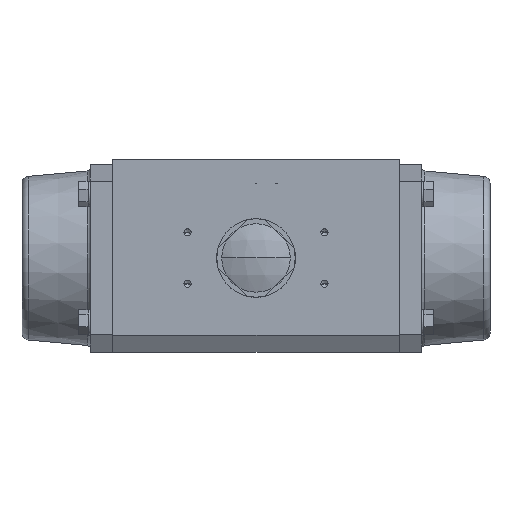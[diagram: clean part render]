
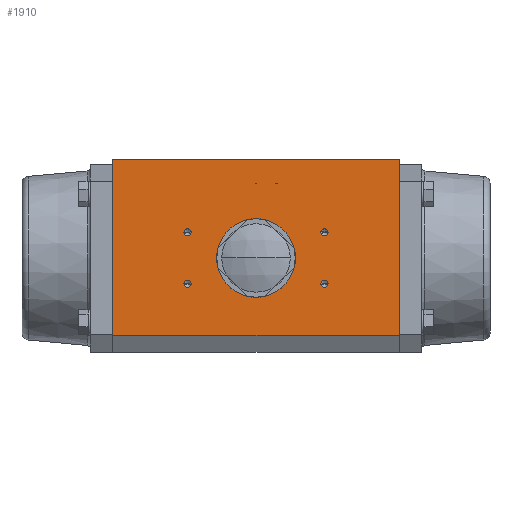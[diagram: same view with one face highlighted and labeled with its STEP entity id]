
A CAD part, top view. The second image highlights one B-rep face of the part: STEP entity #1910.
In plain terms, the highlighted planar face has unit normal (0, 0, 1) as drawn and (0, 1, 0) by its records, which use the part's own axes.
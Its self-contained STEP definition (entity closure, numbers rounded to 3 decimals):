
#249 = DIRECTION ( 'NONE',  ( 0., 1., 0. ) ) ;
#447 = VERTEX_POINT ( 'NONE', #2115 ) ;
#938 = DIRECTION ( 'NONE',  ( 0., -1., 0. ) ) ;
#948 = CIRCLE ( 'NONE', #28590, 2.1 ) ;
#1014 = FACE_OUTER_BOUND ( 'NONE', #37770, .T. ) ;
#1475 = EDGE_CURVE ( 'NONE', #29313, #14254, #10353, .T. ) ;
#1479 = CARTESIAN_POINT ( 'NONE',  ( 15., 62.5, -40. ) ) ;
#1910 = ADVANCED_FACE ( 'NONE', ( #8908, #24716, #1931, #32663, #1014 ), #9774, .F. ) ;
#1931 = FACE_BOUND ( 'NONE', #11917, .T. ) ;
#2115 = CARTESIAN_POINT ( 'NONE',  ( 57.5, 62.5, -83.75 ) ) ;
#2590 = DIRECTION ( 'NONE',  ( 0., 0., 1. ) ) ;
#2739 = CARTESIAN_POINT ( 'NONE',  ( -15., 62.5, 42.1 ) ) ;
#2790 = CARTESIAN_POINT ( 'NONE',  ( -45., 62.5, -83.75 ) ) ;
#3411 = CARTESIAN_POINT ( 'NONE',  ( -15., 62.5, 40. ) ) ;
#4121 = DIRECTION ( 'NONE',  ( 0., 1., 0. ) ) ;
#4434 = EDGE_CURVE ( 'NONE', #447, #33873, #20132, .T. ) ;
#4460 = DIRECTION ( 'NONE',  ( 0., 0., 1. ) ) ;
#4878 = CARTESIAN_POINT ( 'NONE',  ( 15., 62.5, -42.1 ) ) ;
#4897 = LINE ( 'NONE', #35146, #20706 ) ;
#6055 = AXIS2_PLACEMENT_3D ( 'NONE', #17243, #38077, #20200 ) ;
#6317 = CARTESIAN_POINT ( 'NONE',  ( -15., 62.5, 37.9 ) ) ;
#6334 = CARTESIAN_POINT ( 'NONE',  ( 15., 62.5, 42.1 ) ) ;
#6381 = CARTESIAN_POINT ( 'NONE',  ( -15., 62.5, -37.9 ) ) ;
#6416 = DIRECTION ( 'NONE',  ( 0., 0., -1. ) ) ;
#6904 = CARTESIAN_POINT ( 'NONE',  ( 57.5, 62.5, -83.75 ) ) ;
#7024 = DIRECTION ( 'NONE',  ( 0., 0., 1. ) ) ;
#7026 = CARTESIAN_POINT ( 'NONE',  ( -45., 62.5, 83.75 ) ) ;
#7543 = VERTEX_POINT ( 'NONE', #6381 ) ;
#7964 = EDGE_CURVE ( 'NONE', #22299, #21998, #948, .T. ) ;
#8908 = FACE_BOUND ( 'NONE', #27135, .T. ) ;
#9774 = PLANE ( 'NONE',  #37954 ) ;
#9928 = AXIS2_PLACEMENT_3D ( 'NONE', #18039, #249, #21010 ) ;
#10353 = CIRCLE ( 'NONE', #30257, 2.1 ) ;
#10374 = LINE ( 'NONE', #7026, #34107 ) ;
#10711 = CARTESIAN_POINT ( 'NONE',  ( 57.5, 62.5, 83.75 ) ) ;
#10778 = ORIENTED_EDGE ( 'NONE', *, *, #28640, .F. ) ;
#11112 = VERTEX_POINT ( 'NONE', #33732 ) ;
#11398 = DIRECTION ( 'NONE',  ( 0., 1., 0. ) ) ;
#11917 = EDGE_LOOP ( 'NONE', ( #34482, #16367 ) ) ;
#12247 = VECTOR ( 'NONE', #7024, 1000. ) ;
#12917 = EDGE_CURVE ( 'NONE', #17835, #36243, #28755, .T. ) ;
#13101 = ORIENTED_EDGE ( 'NONE', *, *, #25601, .F. ) ;
#14254 = VERTEX_POINT ( 'NONE', #4878 ) ;
#16331 = ORIENTED_EDGE ( 'NONE', *, *, #20876, .F. ) ;
#16367 = ORIENTED_EDGE ( 'NONE', *, *, #12917, .T. ) ;
#16541 = CARTESIAN_POINT ( 'NONE',  ( -15., 62.5, -42.1 ) ) ;
#16738 = DIRECTION ( 'NONE',  ( 0., -1., 0. ) ) ;
#16911 = CIRCLE ( 'NONE', #23715, 2.1 ) ;
#17212 = ORIENTED_EDGE ( 'NONE', *, *, #1475, .F. ) ;
#17243 = CARTESIAN_POINT ( 'NONE',  ( 15., 62.5, 40. ) ) ;
#17385 = EDGE_CURVE ( 'NONE', #36243, #17835, #25069, .T. ) ;
#17835 = VERTEX_POINT ( 'NONE', #2739 ) ;
#18039 = CARTESIAN_POINT ( 'NONE',  ( -15., 62.5, -40. ) ) ;
#18231 = ORIENTED_EDGE ( 'NONE', *, *, #4434, .F. ) ;
#19563 = EDGE_LOOP ( 'NONE', ( #16331, #29884 ) ) ;
#19659 = EDGE_CURVE ( 'NONE', #14254, #29313, #16911, .T. ) ;
#20085 = EDGE_LOOP ( 'NONE', ( #13101, #10778 ) ) ;
#20132 = LINE ( 'NONE', #6904, #12247 ) ;
#20200 = DIRECTION ( 'NONE',  ( 0., 0., -1. ) ) ;
#20387 = DIRECTION ( 'NONE',  ( 0., 1., 0. ) ) ;
#20578 = DIRECTION ( 'NONE',  ( 1., 0., 0. ) ) ;
#20706 = VECTOR ( 'NONE', #35000, 1000. ) ;
#20876 = EDGE_CURVE ( 'NONE', #21998, #22299, #38483, .T. ) ;
#21010 = DIRECTION ( 'NONE',  ( 0., 0., 1. ) ) ;
#21718 = DIRECTION ( 'NONE',  ( 1., 0., 0. ) ) ;
#21914 = CARTESIAN_POINT ( 'NONE',  ( 15., 62.5, 40. ) ) ;
#21998 = VERTEX_POINT ( 'NONE', #25961 ) ;
#22253 = DIRECTION ( 'NONE',  ( 0., 1., 0. ) ) ;
#22299 = VERTEX_POINT ( 'NONE', #6334 ) ;
#22617 = CIRCLE ( 'NONE', #37504, 2.1 ) ;
#22897 = ORIENTED_EDGE ( 'NONE', *, *, #35091, .F. ) ;
#23715 = AXIS2_PLACEMENT_3D ( 'NONE', #1479, #22253, #4460 ) ;
#24209 = DIRECTION ( 'NONE',  ( 0., -1., 0. ) ) ;
#24292 = ORIENTED_EDGE ( 'NONE', *, *, #28365, .T. ) ;
#24656 = ORIENTED_EDGE ( 'NONE', *, *, #19659, .F. ) ;
#24716 = FACE_BOUND ( 'NONE', #19563, .T. ) ;
#24922 = DIRECTION ( 'NONE',  ( 0., 0., -1. ) ) ;
#25069 = CIRCLE ( 'NONE', #37117, 2.1 ) ;
#25601 = EDGE_CURVE ( 'NONE', #7543, #38134, #22617, .T. ) ;
#25961 = CARTESIAN_POINT ( 'NONE',  ( 15., 62.5, 37.9 ) ) ;
#27135 = EDGE_LOOP ( 'NONE', ( #17212, #24656 ) ) ;
#28365 = EDGE_CURVE ( 'NONE', #11112, #33873, #10374, .T. ) ;
#28590 = AXIS2_PLACEMENT_3D ( 'NONE', #21914, #4121, #24922 ) ;
#28640 = EDGE_CURVE ( 'NONE', #38134, #7543, #38519, .T. ) ;
#28755 = CIRCLE ( 'NONE', #35068, 2.1 ) ;
#29263 = CARTESIAN_POINT ( 'NONE',  ( 15., 62.5, -40. ) ) ;
#29313 = VERTEX_POINT ( 'NONE', #30506 ) ;
#29884 = ORIENTED_EDGE ( 'NONE', *, *, #7964, .F. ) ;
#30003 = VECTOR ( 'NONE', #20578, 1000. ) ;
#30257 = AXIS2_PLACEMENT_3D ( 'NONE', #29263, #11398, #32237 ) ;
#30506 = CARTESIAN_POINT ( 'NONE',  ( 15., 62.5, -37.9 ) ) ;
#30628 = CARTESIAN_POINT ( 'NONE',  ( -45., 62.5, -83.75 ) ) ;
#30931 = LINE ( 'NONE', #2790, #30003 ) ;
#32237 = DIRECTION ( 'NONE',  ( 0., 0., 1. ) ) ;
#32663 = FACE_BOUND ( 'NONE', #20085, .T. ) ;
#33732 = CARTESIAN_POINT ( 'NONE',  ( -45., 62.5, 83.75 ) ) ;
#33822 = DIRECTION ( 'NONE',  ( 1., 0., 0. ) ) ;
#33873 = VERTEX_POINT ( 'NONE', #10711 ) ;
#34107 = VECTOR ( 'NONE', #33822, 1000. ) ;
#34340 = EDGE_CURVE ( 'NONE', #37011, #11112, #4897, .T. ) ;
#34482 = ORIENTED_EDGE ( 'NONE', *, *, #17385, .T. ) ;
#34562 = CARTESIAN_POINT ( 'NONE',  ( -15., 62.5, 40. ) ) ;
#34586 = CARTESIAN_POINT ( 'NONE',  ( -45., 62.5, -83.75 ) ) ;
#35000 = DIRECTION ( 'NONE',  ( 0., 0., 1. ) ) ;
#35068 = AXIS2_PLACEMENT_3D ( 'NONE', #34562, #16738, #37557 ) ;
#35091 = EDGE_CURVE ( 'NONE', #37011, #447, #30931, .T. ) ;
#35146 = CARTESIAN_POINT ( 'NONE',  ( -45., 62.5, -83.75 ) ) ;
#35471 = ORIENTED_EDGE ( 'NONE', *, *, #34340, .T. ) ;
#36243 = VERTEX_POINT ( 'NONE', #6317 ) ;
#37011 = VERTEX_POINT ( 'NONE', #34586 ) ;
#37117 = AXIS2_PLACEMENT_3D ( 'NONE', #3411, #24209, #6416 ) ;
#37504 = AXIS2_PLACEMENT_3D ( 'NONE', #38244, #20387, #2590 ) ;
#37557 = DIRECTION ( 'NONE',  ( 0., 0., -1. ) ) ;
#37770 = EDGE_LOOP ( 'NONE', ( #35471, #24292, #18231, #22897 ) ) ;
#37954 = AXIS2_PLACEMENT_3D ( 'NONE', #30628, #938, #21718 ) ;
#38077 = DIRECTION ( 'NONE',  ( 0., 1., 0. ) ) ;
#38134 = VERTEX_POINT ( 'NONE', #16541 ) ;
#38244 = CARTESIAN_POINT ( 'NONE',  ( -15., 62.5, -40. ) ) ;
#38483 = CIRCLE ( 'NONE', #6055, 2.1 ) ;
#38519 = CIRCLE ( 'NONE', #9928, 2.1 ) ;
